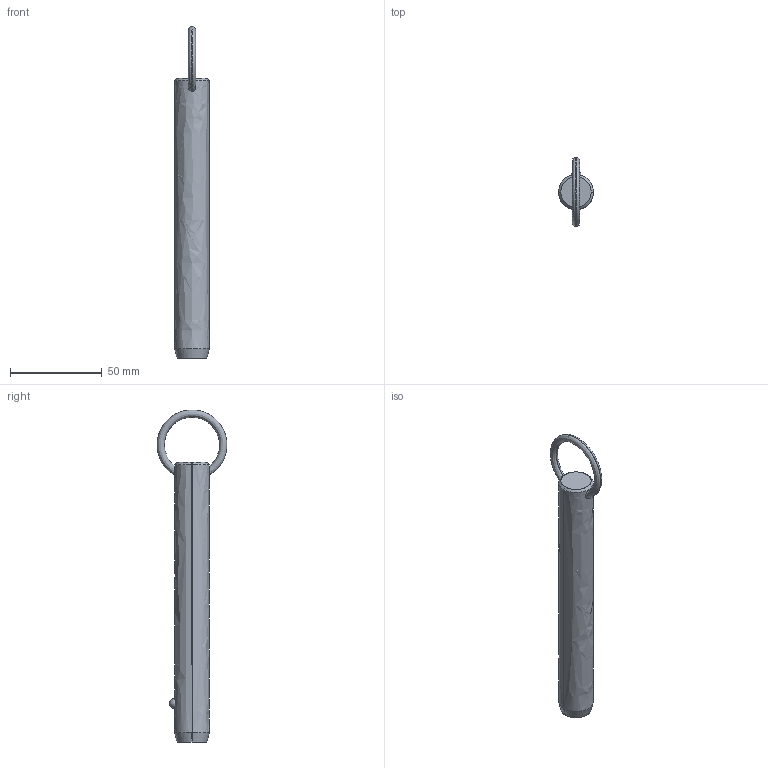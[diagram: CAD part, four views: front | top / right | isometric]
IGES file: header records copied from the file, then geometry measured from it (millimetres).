
Start section: SolidWorks IGES file using analytic representation for surfaces
Global section: file name: C:\Users\liam_\OneDrive\Documents\WORK\Work for WixRoyd\Job Files\J-00019 - Matt Davis CAD Checking\04. CAD Drawings\automotion20190605\P1250.2_v2\P1250.2_v2_20190729_IGES\P1250.075-470.igs; native system: SolidWorks 2017; preprocessor: SolidWorks 2017; author: liam_; date: 190729.235539; units: millimetre
Bounding box: 19 x 38.08 x 181.2 mm (x, y, z)
Surface area: 10641.5 mm2 (no closed solid volume)
Topology: 0 solids, 0 shells, 12 faces, 294 edges, 292 vertices
Faces by surface type: revolution 8, bspline 4
